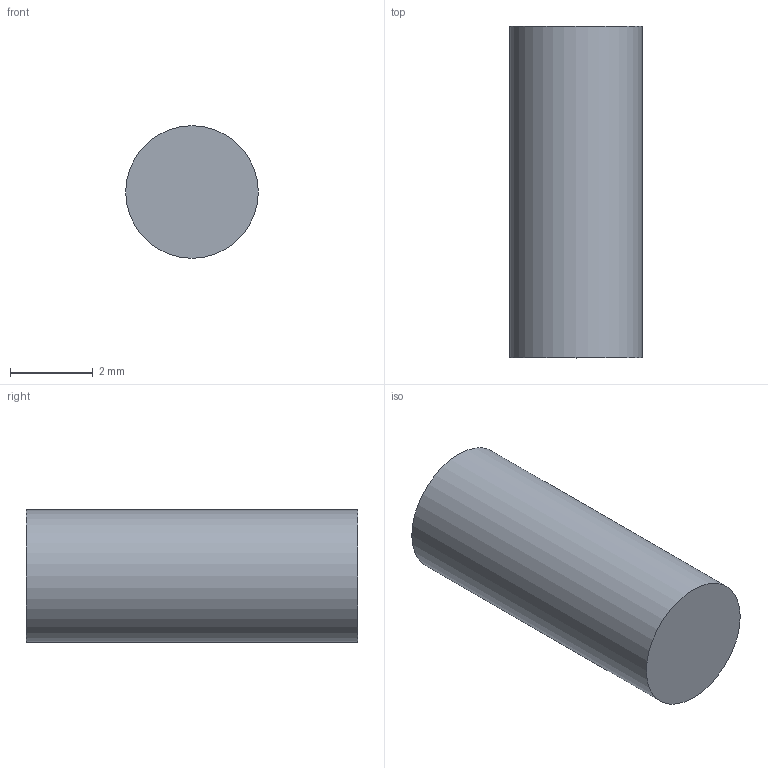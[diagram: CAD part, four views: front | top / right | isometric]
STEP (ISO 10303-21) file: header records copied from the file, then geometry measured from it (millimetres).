
FILE_DESCRIPTION(('Open CASCADE Model'),'2;1');
FILE_NAME('R36_SPEAKER_LAP_SPLICE_2_D3p2_L8','2026-09-15T14:21:06',( 'Author'),('Open CASCADE'),'Open CASCADE STEP processor 7.9', 'build123d','Unknown');
FILE_SCHEMA(('AUTOMOTIVE_DESIGN { 1 0 10303 214 1 1 1 1 }'));
Length unit declared in the file: millimetre
Products named in the file (1): R36_SPEAKER_LAP_SPLICE_2_D3p2_L8
Bounding box: 3.2 x 8 x 3.2 mm (x, y, z)
Volume: 64.3 mm3; surface area: 96.5 mm2
Topology: 1 solids, 1 shells, 3 faces, 3 edges, 2 vertices
Faces by surface type: plane 2, cylinder 1
Full cylindrical faces by diameter (mm): 3.2 x1
Entity records: 108 total; most frequent: DIRECTION 19, CARTESIAN_POINT 15, AXIS2_PLACEMENT_3D 6, ORIENTED_EDGE 6, PCURVE 6, DEFINITIONAL_REPRESENTATION 6, LINE 5, VECTOR 5
